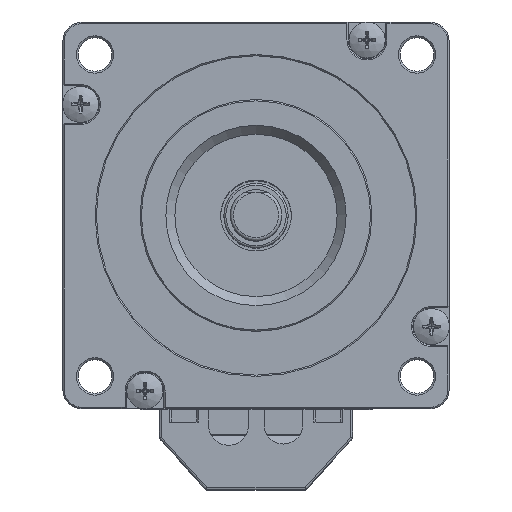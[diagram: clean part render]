
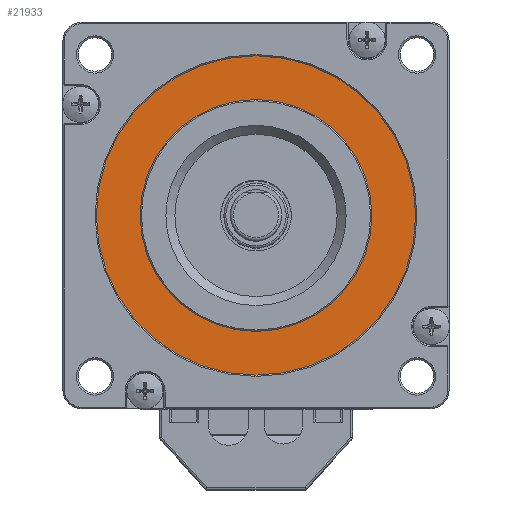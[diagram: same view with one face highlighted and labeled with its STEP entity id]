
A CAD part, top view. The second image highlights one B-rep face of the part: STEP entity #21933.
In plain terms, the highlighted planar face has unit normal (0, 0, 1).
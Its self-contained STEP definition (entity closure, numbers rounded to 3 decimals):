
#1288 = AXIS2_PLACEMENT_3D ( 'NONE', #15972, #17434, #6753 ) ;
#1432 = DIRECTION ( 'NONE',  ( 1., 0., 0. ) ) ;
#2416 = VERTEX_POINT ( 'NONE', #22718 ) ;
#2939 = EDGE_CURVE ( 'NONE', #2416, #2416, #13684, .T. ) ;
#3219 = CARTESIAN_POINT ( 'NONE',  ( 0., 0., 10.8 ) ) ;
#3811 = VERTEX_POINT ( 'NONE', #14285 ) ;
#3931 = DIRECTION ( 'NONE',  ( 1., 0., 0. ) ) ;
#4994 = FACE_OUTER_BOUND ( 'NONE', #17893, .T. ) ;
#5899 = DIRECTION ( 'NONE',  ( 0., 0., 1. ) ) ;
#6753 = DIRECTION ( 'NONE',  ( 1., 0., 0. ) ) ;
#7964 = EDGE_CURVE ( 'NONE', #3811, #3811, #12020, .T. ) ;
#11096 = CARTESIAN_POINT ( 'NONE',  ( 0., 0., 10.8 ) ) ;
#12020 = CIRCLE ( 'NONE', #17638, 24.8 ) ;
#12974 = PLANE ( 'NONE',  #22608 ) ;
#13684 = CIRCLE ( 'NONE', #1288, 18. ) ;
#14285 = CARTESIAN_POINT ( 'NONE',  ( 24.8, 0., 10.8 ) ) ;
#15889 = DIRECTION ( 'NONE',  ( 0., 0., 1. ) ) ;
#15972 = CARTESIAN_POINT ( 'NONE',  ( 0., 0., 10.8 ) ) ;
#17434 = DIRECTION ( 'NONE',  ( 0., 0., 1. ) ) ;
#17638 = AXIS2_PLACEMENT_3D ( 'NONE', #3219, #15889, #1432 ) ;
#17893 = EDGE_LOOP ( 'NONE', ( #22249 ) ) ;
#19617 = FACE_BOUND ( 'NONE', #19896, .T. ) ;
#19896 = EDGE_LOOP ( 'NONE', ( #22258 ) ) ;
#21933 = ADVANCED_FACE ( 'NONE', ( #19617, #4994 ), #12974, .T. ) ;
#22249 = ORIENTED_EDGE ( 'NONE', *, *, #7964, .T. ) ;
#22258 = ORIENTED_EDGE ( 'NONE', *, *, #2939, .F. ) ;
#22608 = AXIS2_PLACEMENT_3D ( 'NONE', #11096, #5899, #3931 ) ;
#22718 = CARTESIAN_POINT ( 'NONE',  ( 18., 0., 10.8 ) ) ;
